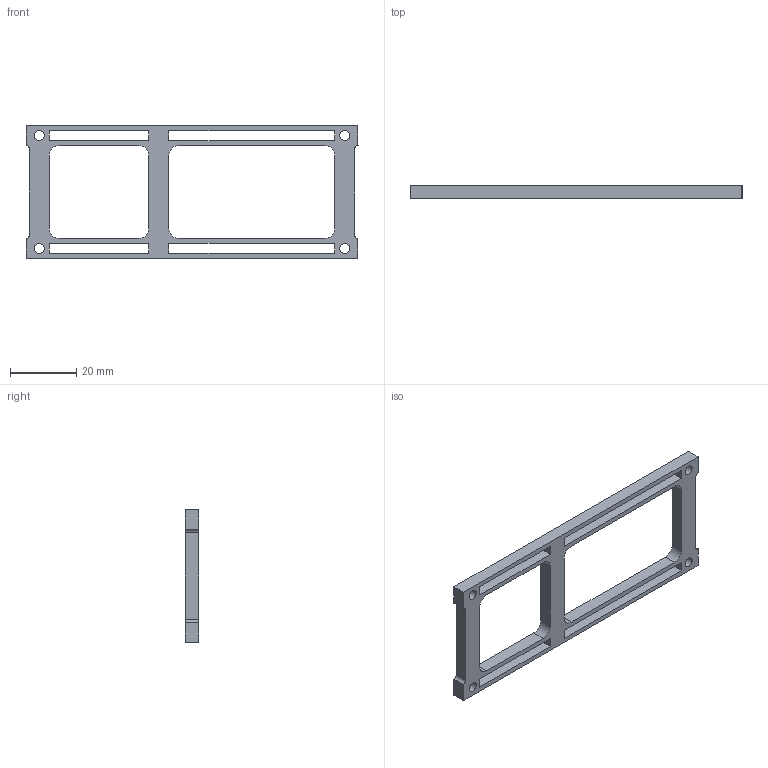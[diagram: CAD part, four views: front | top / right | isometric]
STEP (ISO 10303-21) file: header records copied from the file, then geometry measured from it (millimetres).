
FILE_DESCRIPTION(/* description */ ('','CAx-IF Rec.Pracs.---Representation and Presentation of Product Manufacturing Information (PMI)---4.0---2014-10-13'),/* implementation_level */ '2;1');
FILE_NAME(/* name */ 'a1_mini_dc_bridge_v1.step',/* time_stamp */ '2025-01-02T23:58:04+08:00',/* author */ (''),/* organization */ (''),/* preprocessor_version */ 'ST-DEVELOPER v20',/* originating_system */ 'Autodesk Translation Framework v13.20.0.188',/* authorisation */ '');
FILE_SCHEMA (('AP242_MANAGED_MODEL_BASED_3D_ENGINEERING_MIM_LF { 1 0 10303 442 1 1 4 }'));
Length unit declared in the file: millimetre
Products named in the file (1): a1_mini_dc_bridge
Bounding box: 100 x 4 x 40 mm (x, y, z)
Volume: 4848.1 mm3; surface area: 6126.8 mm2
Topology: 1 solids, 1 shells, 50 faces, 144 edges, 96 vertices
Faces by surface type: plane 34, cylinder 16
Full cylindrical faces by diameter (mm): 3 x4
Entity records: 1713 total; most frequent: CARTESIAN_POINT 291, ORIENTED_EDGE 288, DIRECTION 278, EDGE_CURVE 144, LINE 112, VECTOR 112, VERTEX_POINT 96, AXIS2_PLACEMENT_3D 83
